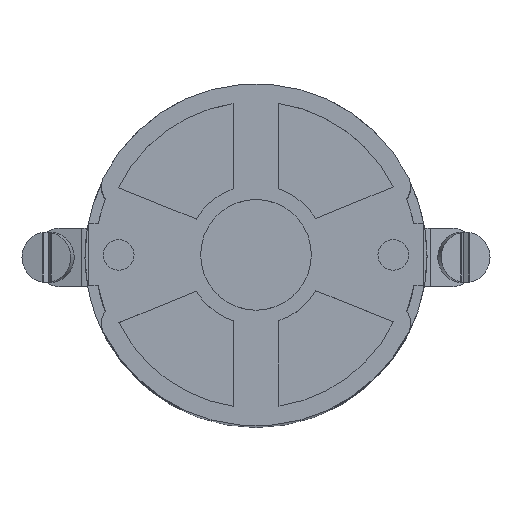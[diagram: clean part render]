
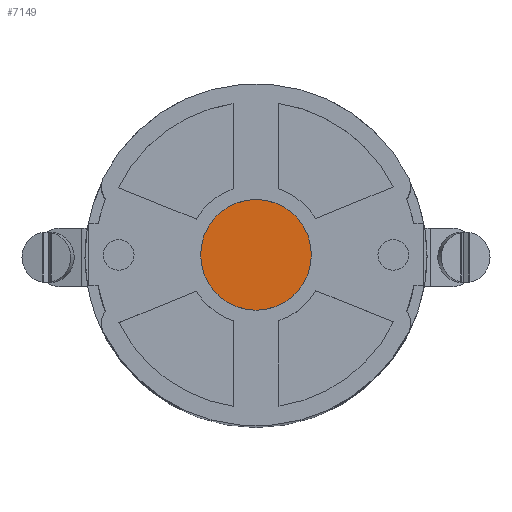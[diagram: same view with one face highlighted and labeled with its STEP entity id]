
A CAD part, top view. The second image highlights one B-rep face of the part: STEP entity #7149.
In plain terms, the highlighted planar face has unit normal (0, 0, 1).
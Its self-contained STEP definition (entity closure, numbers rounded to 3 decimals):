
#960=FACE_OUTER_BOUND('',#10004,.T.);
#7149=ADVANCED_FACE('',(#960),#8484,.T.);
#8484=PLANE('',#26177);
#10004=EDGE_LOOP('',(#12266));
#12266=ORIENTED_EDGE('',*,*,#21938,.F.);
#19295=VERTEX_POINT('',#36031);
#21938=EDGE_CURVE('',#19295,#19295,#25269,.T.);
#25269=CIRCLE('',#26176,6.15);
#26176=AXIS2_PLACEMENT_3D('',#36030,#29068,#29069);
#26177=AXIS2_PLACEMENT_3D('',#36032,#29070,#29071);
#29068=DIRECTION('',(0.,0.,-1.));
#29069=DIRECTION('',(1.,0.,0.));
#29070=DIRECTION('',(0.,0.,1.));
#29071=DIRECTION('',(1.,0.,0.));
#36030=CARTESIAN_POINT('',(0.,0.,98.9));
#36031=CARTESIAN_POINT('',(6.15,0.,98.9));
#36032=CARTESIAN_POINT('',(0.,0.,98.9));
